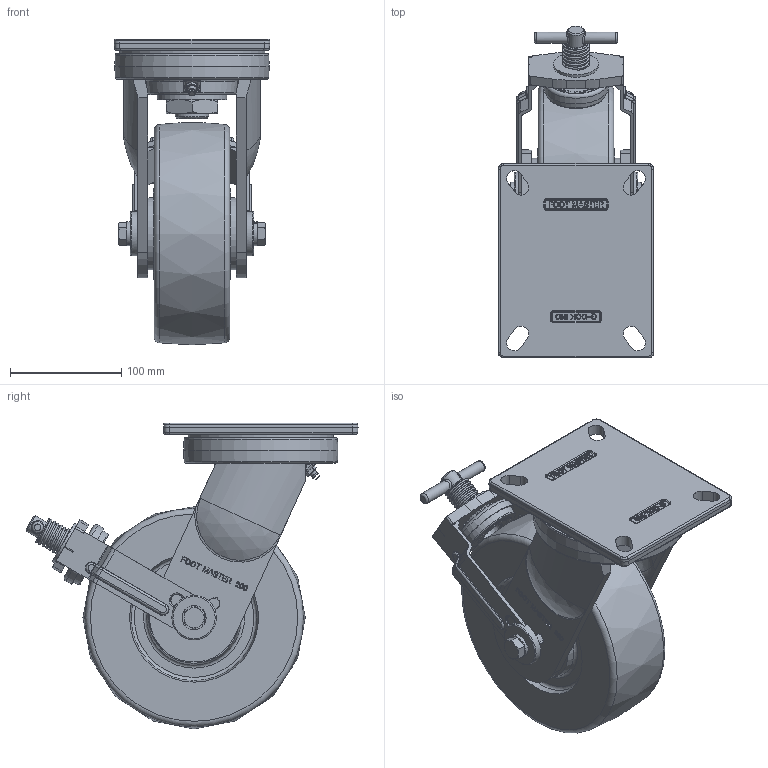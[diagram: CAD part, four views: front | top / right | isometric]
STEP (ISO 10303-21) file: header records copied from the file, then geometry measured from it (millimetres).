
FILE_DESCRIPTION(/* description */ (''),/* implementation_level */ '2;1');
FILE_NAME(/* name */ 'Y:\1.기술연구소\2.연구개발 진행중\133.고하중캐스터 브레이크 타입 변경건_2025.11.03\1.도면\4.홈페이지용 도면\01. 3D\GXT-200 SERIES\GXT-200-STEP\GXT-200-BSF-HUD.stp',/* time_stamp */ '2026-07-21T18:39:27+09:00',/* author */ ('장용하'),/* organization */ (''),/* preprocessor_version */ 'ST-DEVELOPER v18.1',/* originating_system */ 'Autodesk Inventor 2021',/* authorisation */ '');
FILE_SCHEMA (('CONFIG_CONTROL_DESIGN'));
Products named in the file (1): GXT-200-BSF-HUD
Bounding box: 140 x 298.74 x 275 mm (x, y, z)
Volume: 3220402.2 mm3; surface area: 283853.7 mm2
Topology: 1 solids, 1 shells, 1759 faces, 4702 edges, 3067 vertices
Faces by surface type: plane 823, bspline 640, cylinder 193, torus 55, cone 44, sphere 4
Full cylindrical faces by diameter (mm): 10 x2, 12 x2, 13 x2, 16 x1, 20 x1, 30 x1, 31.606 x1, 40 x3, 54 x2, 58 x1, 62.5 x1, 65 x2, 131.086 x1
Entity records: 59788 total; most frequent: CARTESIAN_POINT 19807, ORIENTED_EDGE 9406, DIRECTION 6322, EDGE_CURVE 4703, VERTEX_POINT 3069, LINE 2668, VECTOR 2668, EDGE_LOOP 1908
